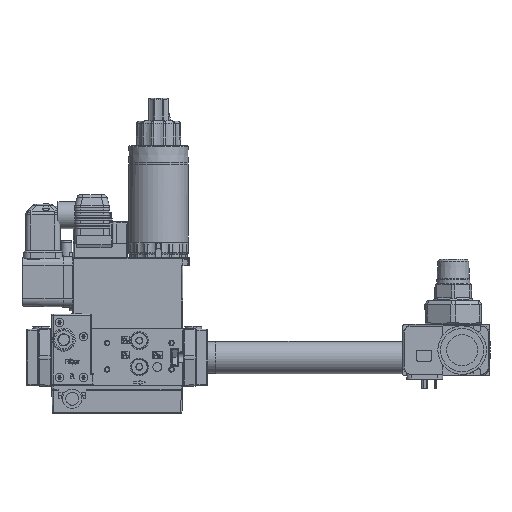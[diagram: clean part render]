
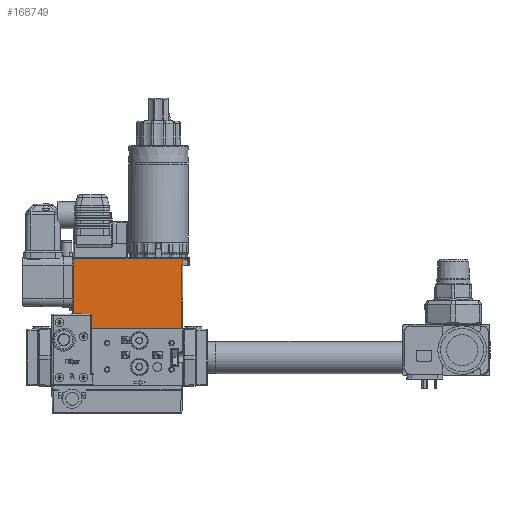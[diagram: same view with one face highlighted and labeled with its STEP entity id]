
A CAD part, top view. The second image highlights one B-rep face of the part: STEP entity #168749.
In plain terms, the highlighted planar face has unit normal (0, -0.006, 1).
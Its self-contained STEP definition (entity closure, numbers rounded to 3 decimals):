
#3169 = VECTOR ( 'NONE', #142648, 1000. ) ;
#5083 = CARTESIAN_POINT ( 'NONE',  ( 56.946, -8.001, 36.456 ) ) ;
#5760 = CARTESIAN_POINT ( 'NONE',  ( -27.311, -55.501, 36.18 ) ) ;
#9668 = VECTOR ( 'NONE', #157540, 1000. ) ;
#9913 = CARTESIAN_POINT ( 'NONE',  ( 56.946, -8.001, 36.456 ) ) ;
#10061 = EDGE_CURVE ( 'NONE', #144841, #132780, #171779, .T. ) ;
#10423 = EDGE_LOOP ( 'NONE', ( #25800, #50747, #174602, #140994, #93404, #134900, #64550, #31839, #18213, #15944, #79636, #130692, #171992, #124482, #63978 ) ) ;
#12218 = LINE ( 'NONE', #185744, #95072 ) ;
#15727 = CARTESIAN_POINT ( 'NONE',  ( 56.946, -60.501, 36.151 ) ) ;
#15892 = EDGE_CURVE ( 'NONE', #46373, #32608, #33352, .T. ) ;
#15944 = ORIENTED_EDGE ( 'NONE', *, *, #156176, .T. ) ;
#16597 = CARTESIAN_POINT ( 'NONE',  ( 61.872, -2.004, 36.491 ) ) ;
#16607 = CARTESIAN_POINT ( 'NONE',  ( -33.922, -2.004, 36.491 ) ) ;
#18213 = ORIENTED_EDGE ( 'NONE', *, *, #153218, .T. ) ;
#18319 = DIRECTION ( 'NONE',  ( 0.006, 1., 0.006 ) ) ;
#18386 = LINE ( 'NONE', #5083, #152226 ) ;
#20736 = CARTESIAN_POINT ( 'NONE',  ( 57.281, -3.001, 36.485 ) ) ;
#25800 = ORIENTED_EDGE ( 'NONE', *, *, #48452, .T. ) ;
#27001 = CARTESIAN_POINT ( 'NONE',  ( 55.946, -60.501, 36.151 ) ) ;
#27076 = CARTESIAN_POINT ( 'NONE',  ( -27.354, -48.201, 36.222 ) ) ;
#28657 = LINE ( 'NONE', #46580, #103388 ) ;
#28681 = CARTESIAN_POINT ( 'NONE',  ( -27.354, -48.201, 36.222 ) ) ;
#28867 = VECTOR ( 'NONE', #31855, 1000. ) ;
#31839 = ORIENTED_EDGE ( 'NONE', *, *, #42214, .T. ) ;
#31855 = DIRECTION ( 'NONE',  ( 1., 0., 0. ) ) ;
#32234 = EDGE_CURVE ( 'NONE', #164587, #50473, #32596, .T. ) ;
#32596 = LINE ( 'NONE', #74280, #172195 ) ;
#32608 = VERTEX_POINT ( 'NONE', #49118 ) ;
#33352 = LINE ( 'NONE', #148028, #122500 ) ;
#40761 = EDGE_CURVE ( 'NONE', #159363, #95354, #28657, .T. ) ;
#42196 = VECTOR ( 'NONE', #132256, 1000. ) ;
#42214 = EDGE_CURVE ( 'NONE', #32608, #145125, #145716, .T. ) ;
#44120 = LINE ( 'NONE', #16607, #42196 ) ;
#44374 = DIRECTION ( 'NONE',  ( 1., 0., 0. ) ) ;
#46373 = VERTEX_POINT ( 'NONE', #5760 ) ;
#46580 = CARTESIAN_POINT ( 'NONE',  ( 34.189, -2.004, 36.491 ) ) ;
#48405 = CARTESIAN_POINT ( 'NONE',  ( -25.554, -60.501, 36.151 ) ) ;
#48422 = DIRECTION ( 'NONE',  ( 0., -1., -0.006 ) ) ;
#48452 = EDGE_CURVE ( 'NONE', #75271, #175685, #79178, .T. ) ;
#49118 = CARTESIAN_POINT ( 'NONE',  ( -25.554, -55.501, 36.18 ) ) ;
#49554 = LINE ( 'NONE', #148200, #99701 ) ;
#50473 = VERTEX_POINT ( 'NONE', #28681 ) ;
#50747 = ORIENTED_EDGE ( 'NONE', *, *, #148038, .T. ) ;
#51754 = DIRECTION ( 'NONE',  ( 0.006, -1., -0.006 ) ) ;
#52076 = EDGE_CURVE ( 'NONE', #132780, #109820, #107756, .T. ) ;
#54390 = CARTESIAN_POINT ( 'NONE',  ( 61.308, -3.001, 36.485 ) ) ;
#63088 = CARTESIAN_POINT ( 'NONE',  ( 57.252, -8.001, 36.456 ) ) ;
#63978 = ORIENTED_EDGE ( 'NONE', *, *, #118897, .T. ) ;
#64550 = ORIENTED_EDGE ( 'NONE', *, *, #15892, .T. ) ;
#67433 = CARTESIAN_POINT ( 'NONE',  ( 56.252, -8.001, 36.456 ) ) ;
#74280 = CARTESIAN_POINT ( 'NONE',  ( 56.946, -48.201, 36.222 ) ) ;
#75271 = VERTEX_POINT ( 'NONE', #95979 ) ;
#75787 = CARTESIAN_POINT ( 'NONE',  ( -24.974, -60.501, 36.151 ) ) ;
#76222 = DIRECTION ( 'NONE',  ( 1., 0., 0. ) ) ;
#76728 = AXIS2_PLACEMENT_3D ( 'NONE', #76896, #134717, #48422 ) ;
#76896 = CARTESIAN_POINT ( 'NONE',  ( 56.946, -60.501, 36.151 ) ) ;
#79178 = LINE ( 'NONE', #9913, #163803 ) ;
#79636 = ORIENTED_EDGE ( 'NONE', *, *, #149966, .T. ) ;
#82693 = VECTOR ( 'NONE', #108692, 1000. ) ;
#86406 = EDGE_CURVE ( 'NONE', #144052, #144841, #18386, .T. ) ;
#93404 = ORIENTED_EDGE ( 'NONE', *, *, #32234, .T. ) ;
#93993 = DIRECTION ( 'NONE',  ( 1., 0., 0. ) ) ;
#94381 = VERTEX_POINT ( 'NONE', #75787 ) ;
#95072 = VECTOR ( 'NONE', #44374, 1000. ) ;
#95354 = VERTEX_POINT ( 'NONE', #16597 ) ;
#95979 = CARTESIAN_POINT ( 'NONE',  ( 61.337, -8.001, 36.456 ) ) ;
#98002 = DIRECTION ( 'NONE',  ( 0.006, -1., -0.006 ) ) ;
#99701 = VECTOR ( 'NONE', #18319, 1000. ) ;
#103388 = VECTOR ( 'NONE', #118634, 1000. ) ;
#103654 = DIRECTION ( 'NONE',  ( 1., 0., 0. ) ) ;
#103978 = DIRECTION ( 'NONE',  ( 0., -1., -0.006 ) ) ;
#107756 = LINE ( 'NONE', #122901, #82693 ) ;
#108692 = DIRECTION ( 'NONE',  ( 1., 0., 0. ) ) ;
#109820 = VERTEX_POINT ( 'NONE', #152326 ) ;
#116968 = LINE ( 'NONE', #27001, #3169 ) ;
#118634 = DIRECTION ( 'NONE',  ( 1., 0., 0. ) ) ;
#118897 = EDGE_CURVE ( 'NONE', #109820, #75271, #122671, .T. ) ;
#119532 = FACE_OUTER_BOUND ( 'NONE', #10423, .T. ) ;
#122500 = VECTOR ( 'NONE', #93993, 1000. ) ;
#122646 = VERTEX_POINT ( 'NONE', #179070 ) ;
#122671 = LINE ( 'NONE', #54390, #167084 ) ;
#122901 = CARTESIAN_POINT ( 'NONE',  ( 56.946, -3.001, 36.485 ) ) ;
#123836 = EDGE_CURVE ( 'NONE', #50473, #46373, #128443, .T. ) ;
#124482 = ORIENTED_EDGE ( 'NONE', *, *, #52076, .T. ) ;
#127332 = EDGE_CURVE ( 'NONE', #159363, #164587, #44120, .T. ) ;
#127968 = CARTESIAN_POINT ( 'NONE',  ( -33.654, -48.201, 36.222 ) ) ;
#128443 = LINE ( 'NONE', #27076, #170906 ) ;
#130692 = ORIENTED_EDGE ( 'NONE', *, *, #86406, .T. ) ;
#132256 = DIRECTION ( 'NONE',  ( 0.006, -1., -0.006 ) ) ;
#132780 = VERTEX_POINT ( 'NONE', #20736 ) ;
#134717 = DIRECTION ( 'NONE',  ( 0., -0.006, 1. ) ) ;
#134900 = ORIENTED_EDGE ( 'NONE', *, *, #123836, .T. ) ;
#140994 = ORIENTED_EDGE ( 'NONE', *, *, #127332, .T. ) ;
#142648 = DIRECTION ( 'NONE',  ( 0.006, 1., 0.006 ) ) ;
#144052 = VERTEX_POINT ( 'NONE', #67433 ) ;
#144841 = VERTEX_POINT ( 'NONE', #63088 ) ;
#145125 = VERTEX_POINT ( 'NONE', #48405 ) ;
#145716 = LINE ( 'NONE', #173256, #153960 ) ;
#148028 = CARTESIAN_POINT ( 'NONE',  ( 56.946, -55.501, 36.18 ) ) ;
#148038 = EDGE_CURVE ( 'NONE', #175685, #95354, #49554, .T. ) ;
#148200 = CARTESIAN_POINT ( 'NONE',  ( 61.837, -8.001, 36.456 ) ) ;
#148925 = PLANE ( 'NONE',  #76728 ) ;
#149966 = EDGE_CURVE ( 'NONE', #122646, #144052, #116968, .T. ) ;
#152226 = VECTOR ( 'NONE', #76222, 1000. ) ;
#152326 = CARTESIAN_POINT ( 'NONE',  ( 61.308, -3.001, 36.485 ) ) ;
#153218 = EDGE_CURVE ( 'NONE', #145125, #94381, #12218, .T. ) ;
#153960 = VECTOR ( 'NONE', #103978, 1000. ) ;
#156176 = EDGE_CURVE ( 'NONE', #94381, #122646, #161727, .T. ) ;
#157540 = DIRECTION ( 'NONE',  ( 0.006, 1., 0.006 ) ) ;
#159363 = VERTEX_POINT ( 'NONE', #177050 ) ;
#161727 = LINE ( 'NONE', #15727, #28867 ) ;
#163803 = VECTOR ( 'NONE', #167341, 1000. ) ;
#164587 = VERTEX_POINT ( 'NONE', #127968 ) ;
#167084 = VECTOR ( 'NONE', #98002, 1000. ) ;
#167341 = DIRECTION ( 'NONE',  ( 1., 0., 0. ) ) ;
#168749 = ADVANCED_FACE ( 'NONE', ( #119532 ), #148925, .T. ) ;
#170906 = VECTOR ( 'NONE', #51754, 1000. ) ;
#171779 = LINE ( 'NONE', #173621, #9668 ) ;
#171941 = CARTESIAN_POINT ( 'NONE',  ( 61.837, -8.001, 36.456 ) ) ;
#171992 = ORIENTED_EDGE ( 'NONE', *, *, #10061, .T. ) ;
#172195 = VECTOR ( 'NONE', #103654, 1000. ) ;
#173256 = CARTESIAN_POINT ( 'NONE',  ( -25.554, -60.501, 36.151 ) ) ;
#173621 = CARTESIAN_POINT ( 'NONE',  ( 57.252, -8.001, 36.456 ) ) ;
#174602 = ORIENTED_EDGE ( 'NONE', *, *, #40761, .F. ) ;
#175685 = VERTEX_POINT ( 'NONE', #171941 ) ;
#177050 = CARTESIAN_POINT ( 'NONE',  ( -33.922, -2.004, 36.491 ) ) ;
#179070 = CARTESIAN_POINT ( 'NONE',  ( 55.946, -60.501, 36.151 ) ) ;
#185744 = CARTESIAN_POINT ( 'NONE',  ( 56.946, -60.501, 36.151 ) ) ;
